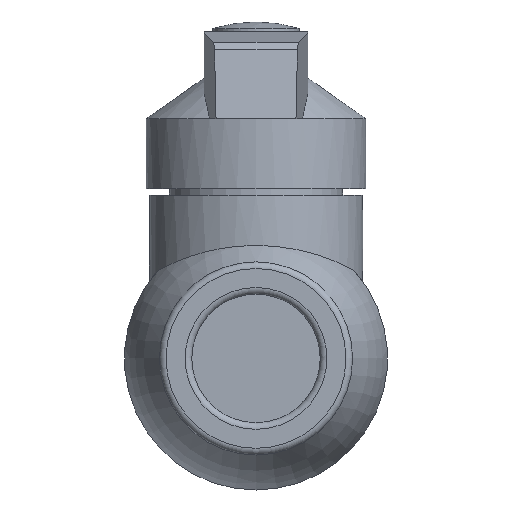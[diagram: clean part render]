
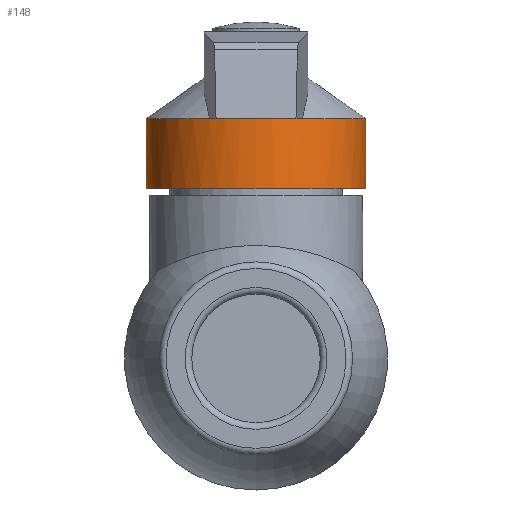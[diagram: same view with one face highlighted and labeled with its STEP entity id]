
A CAD part, front view. The second image highlights one B-rep face of the part: STEP entity #148.
In plain terms, the highlighted cylindrical face has radius 16.5 mm (diameter 33 mm), a full revolution.
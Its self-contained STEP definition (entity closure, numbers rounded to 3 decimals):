
#148=ADVANCED_FACE('',(#872,#874),#876,.T.);
#872=FACE_BOUND('',#873,.T.);
#873=EDGE_LOOP('',(#1666,#1667,#1668,#1669,#1670));
#874=FACE_OUTER_BOUND('',#875,.T.);
#875=EDGE_LOOP('',(#1671));
#876=CYLINDRICAL_SURFACE('',#877,16.5);
#877=AXIS2_PLACEMENT_3D('',#878,#879,#880);
#878=CARTESIAN_POINT('',(0.,0.,25.5));
#879=DIRECTION('',(0.,0.,1.));
#880=DIRECTION('',(0.,-1.,0.));
#1666=ORIENTED_EDGE('',*,*,#2138,.F.);
#1667=ORIENTED_EDGE('',*,*,#2139,.F.);
#1668=ORIENTED_EDGE('',*,*,#2140,.F.);
#1669=ORIENTED_EDGE('',*,*,#2141,.F.);
#1670=ORIENTED_EDGE('',*,*,#1871,.F.);
#1671=ORIENTED_EDGE('',*,*,#2142,.T.);
#1871=EDGE_CURVE('',#2195,#2197,#2198,.T.);
#2138=EDGE_CURVE('',#2642,#2195,#2643,.T.);
#2139=EDGE_CURVE('',#2644,#2642,#2645,.T.);
#2140=EDGE_CURVE('',#2646,#2644,#2647,.T.);
#2141=EDGE_CURVE('',#2197,#2646,#2648,.T.);
#2142=EDGE_CURVE('',#2649,#2649,#2650,.T.);
#2195=VERTEX_POINT('',#2740);
#2197=VERTEX_POINT('',#2744);
#2198=CIRCLE('',#2745,16.5);
#2642=VERTEX_POINT('',#3778);
#2643=CIRCLE('',#3779,16.5);
#2644=VERTEX_POINT('',#3783);
#2645=CIRCLE('',#3784,16.5);
#2646=VERTEX_POINT('',#3788);
#2647=CIRCLE('',#3789,16.5);
#2648=CIRCLE('',#3793,16.5);
#2649=VERTEX_POINT('',#3797);
#2650=CIRCLE('',#3798,16.5);
#2740=CARTESIAN_POINT('',(7.439,14.728,36.));
#2744=CARTESIAN_POINT('',(-7.439,14.728,36.));
#2745=AXIS2_PLACEMENT_3D('',#2746,#2747,#2748);
#2746=CARTESIAN_POINT('',(0.,0.,36.));
#2747=DIRECTION('',(0.,0.,1.));
#2748=DIRECTION('',(0.451,0.893,0.));
#3778=CARTESIAN_POINT('',(6.965,-14.958,36.));
#3779=AXIS2_PLACEMENT_3D('',#3780,#3781,#3782);
#3780=CARTESIAN_POINT('',(0.,0.,36.));
#3781=DIRECTION('',(0.,0.,1.));
#3782=DIRECTION('',(0.422,-0.907,0.));
#3783=CARTESIAN_POINT('',(0.,-16.5,36.));
#3784=AXIS2_PLACEMENT_3D('',#3785,#3786,#3787);
#3785=CARTESIAN_POINT('',(0.,0.,36.));
#3786=DIRECTION('',(0.,0.,1.));
#3787=DIRECTION('',(0.,-1.,0.));
#3788=CARTESIAN_POINT('',(-6.965,-14.958,36.));
#3789=AXIS2_PLACEMENT_3D('',#3790,#3791,#3792);
#3790=CARTESIAN_POINT('',(0.,0.,36.));
#3791=DIRECTION('',(0.,0.,1.));
#3792=DIRECTION('',(-0.422,-0.907,0.));
#3793=AXIS2_PLACEMENT_3D('',#3794,#3795,#3796);
#3794=CARTESIAN_POINT('',(0.,0.,36.));
#3795=DIRECTION('',(0.,0.,1.));
#3796=DIRECTION('',(-0.451,0.893,0.));
#3797=CARTESIAN_POINT('',(0.,-16.5,25.5));
#3798=AXIS2_PLACEMENT_3D('',#3799,#3800,#3801);
#3799=CARTESIAN_POINT('',(0.,0.,25.5));
#3800=DIRECTION('',(0.,0.,1.));
#3801=DIRECTION('',(0.,-1.,0.));
